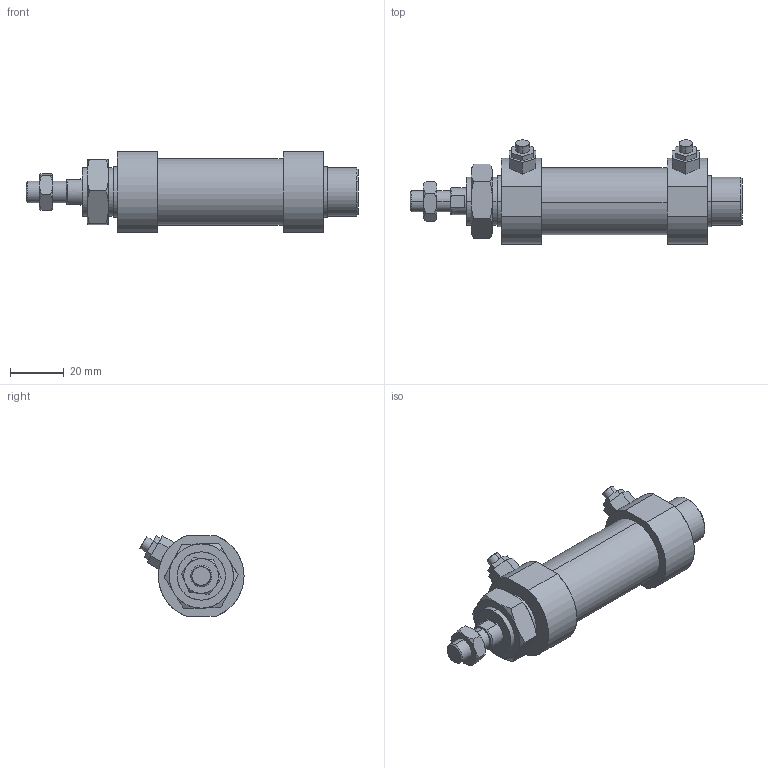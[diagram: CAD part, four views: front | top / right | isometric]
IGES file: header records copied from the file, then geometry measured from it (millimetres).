
Start section: SolidWorks IGES file using analytic representation for surfaces
Global section: file name: C:\Users\Toshiba\Desktop\JG2-20-15-N.IGS; native system: SolidWorks 2014; preprocessor: SolidWorks 2014; author: Toshiba; date: 160419.083414; units: millimetre
Bounding box: 124 x 38.9 x 30 mm (x, y, z)
Surface area: 16160.2 mm2 (no closed solid volume)
Topology: 0 solids, 0 shells, 136 faces, 2104 edges, 2100 vertices
Faces by surface type: bspline 92, revolution 44
